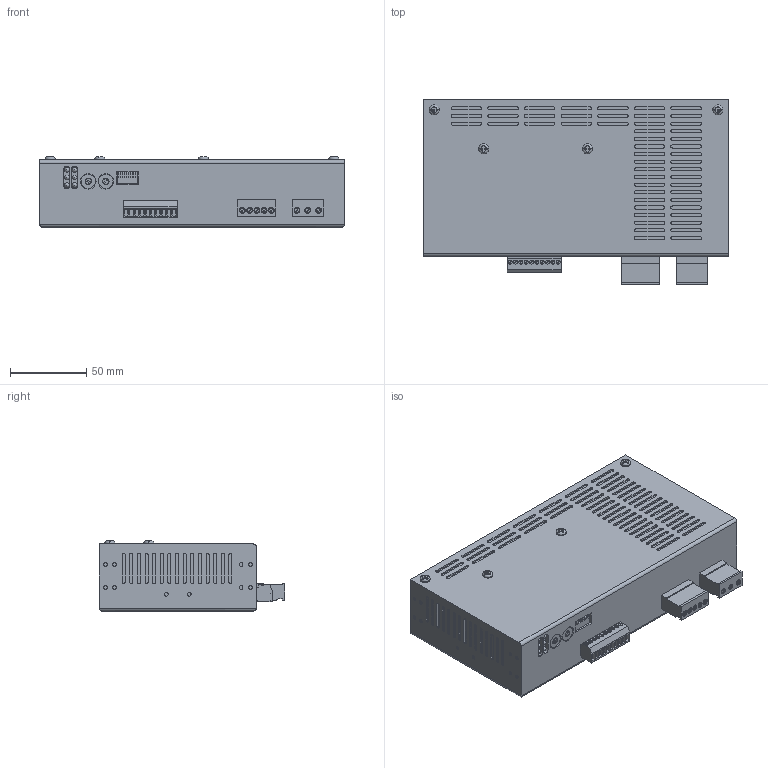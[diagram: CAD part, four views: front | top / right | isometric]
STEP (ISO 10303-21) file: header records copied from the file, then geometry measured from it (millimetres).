
FILE_DESCRIPTION (( 'STEP AP214' ), '1' );
FILE_NAME ('EXD5314CE.STEP', '2011-09-22T01:28:29', ( 'extion' ), ( '' ), 'SwSTEP 2.0', 'SolidWorks 2010', '' );
FILE_SCHEMA (( 'AUTOMOTIVE_DESIGN' ));
Length unit declared in the file: millimetre
Products named in the file (1): EXD5314CE
Bounding box: 200 x 121.6 x 46 mm (x, y, z)
Volume: 913140.3 mm3; surface area: 77570.2 mm2
Topology: 1 solids, 1 shells, 1078 faces, 2642 edges, 1732 vertices
Faces by surface type: plane 692, cylinder 372, torus 8, sphere 6
Entity records: 35952 total; most frequent: CARTESIAN_POINT 5595, DIRECTION 5582, ORIENTED_EDGE 5248, EDGE_CURVE 2624, AXIS2_PLACEMENT_3D 1915, LINE 1752, VECTOR 1752, VERTEX_POINT 1720
